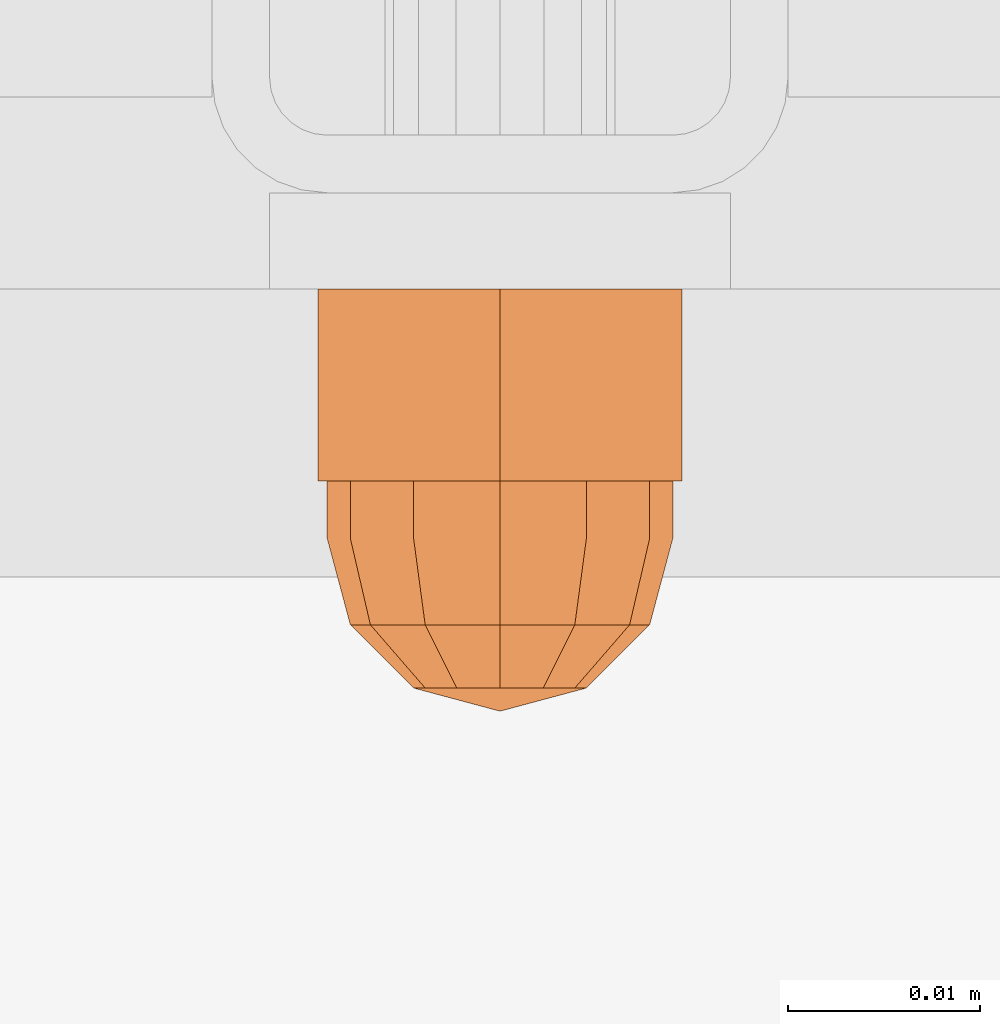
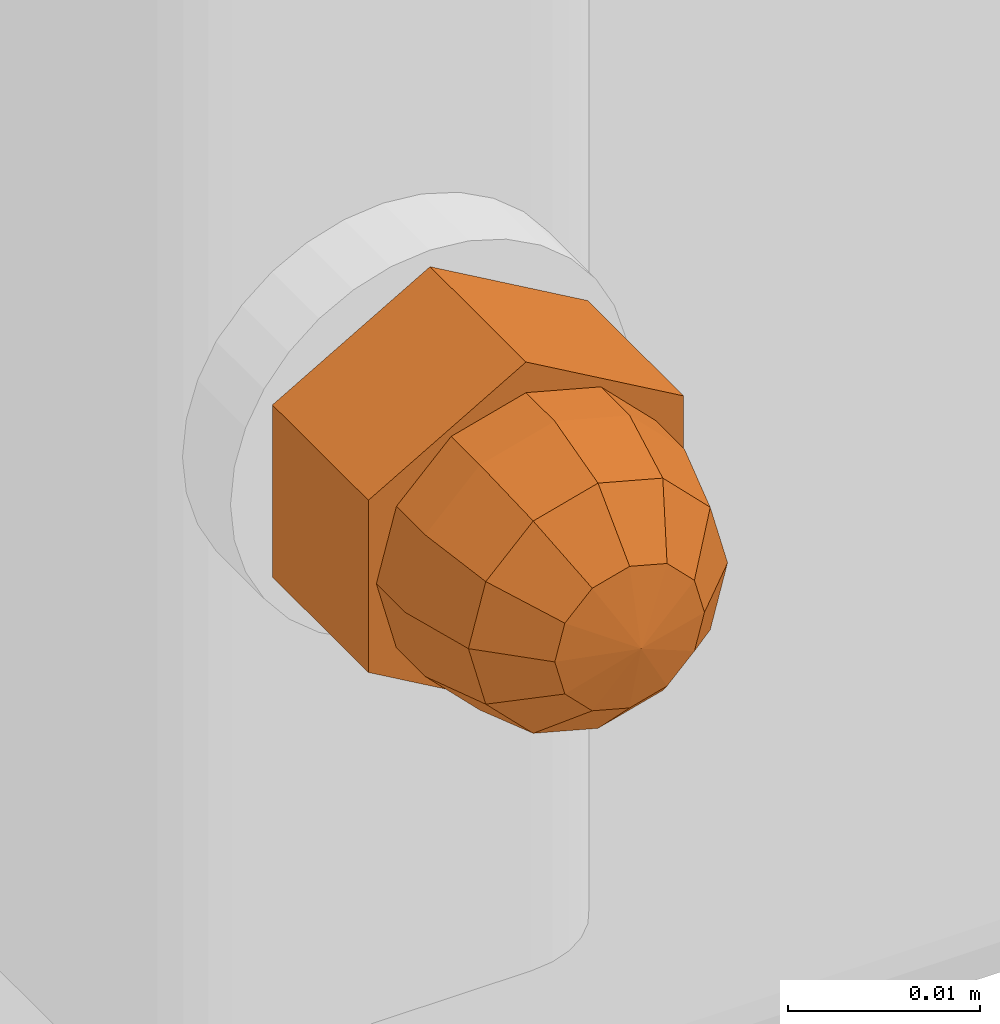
# One storey, part 119 of 162: 1 proxy.
"""IFC2X3 building model written with IfcOpenShell, lengths in millimetres."""

import ifcopenshell
import ifcopenshell.guid

model = None  # the IFC model being written
_history = None  # IfcOwnerHistory: only IFC2X3 demands one
_inside = {}  # id of a spatial element -> (the spatial element, [elements in it])
_under = {}  # id of a project, library or spatial element -> (it, [spatial elements below it])
_declared = {}  # id of a project -> (the project, [libraries it declares])
_typed = {}  # id of a type object -> (the type object, [elements of that type])
_made_of = {}  # id of a material, layer set ... -> (it, [elements and type objects made of it])


def new_model(schema):
    """Start an empty IFC model of exactly this schema.

    Asked for "IFC4X3", IfcOpenShell would pick the latest addendum, in which some entities
    have other attributes; the version numbers below select the first issue.
    IFC2X3 requires an IfcOwnerHistory on every rooted entity: one is made here for all.
    """
    global model, _history
    if schema == "IFC4X3":
        model = ifcopenshell.file(schema_version=(4, 3, 0, 0))
    else:
        model = ifcopenshell.file(schema=schema)
    _inside.clear()
    _under.clear()
    _declared.clear()
    _typed.clear()
    _made_of.clear()
    _history = None
    if model.schema == "IFC2X3":
        org = make("IfcOrganization", Name="unknown")
        user = make(
            "IfcPersonAndOrganization",
            ThePerson=make("IfcPerson", FamilyName="unknown"),
            TheOrganization=org,
        )
        app = make(
            "IfcApplication",
            ApplicationDeveloper=org,
            Version="unknown",
            ApplicationFullName="unknown",
            ApplicationIdentifier="unknown",
        )
        _history = make(
            "IfcOwnerHistory",
            OwningUser=user,
            OwningApplication=app,
            ChangeAction="ADDED",
            CreationDate=0,
        )
    return model


def make(cls, **values):
    """One entity of the class cls with the attributes given. An attribute that is None is left unset."""
    return model.create_entity(
        cls, **{name: value for name, value in values.items() if value is not None}
    )


def entity(cls, *values):
    """Any entity or typed value of the class cls, its attributes in the order of the schema. None: left unset."""
    e = model.create_entity(cls)
    for i, value in enumerate(values):
        if value is not None:
            e[i] = value
    return e


def rooted(cls, **values):
    """An entity with a GlobalId (a new one), such as an element, a storey or a relation."""
    return make(cls, GlobalId=ifcopenshell.guid.new(), OwnerHistory=_history, **values)


def si_unit(unit_type, name, prefix=None):
    """IfcSIUnit, for example si_unit("LENGTHUNIT", "METRE", prefix="MILLI")."""
    return make("IfcSIUnit", UnitType=unit_type, Prefix=prefix, Name=name)


def converted_unit(unit_type, name, factor, base, dimensions=None, offset=None):
    """IfcConversionBasedUnit, such as the inch: factor (a typed value) times the base unit."""
    return make(
        "IfcConversionBasedUnit"
        if offset is None
        else "IfcConversionBasedUnitWithOffset",
        ConversionOffset=offset,
        Dimensions=None
        if dimensions is None
        else entity("IfcDimensionalExponents", *dimensions),
        UnitType=unit_type,
        Name=name,
        ConversionFactor=make(
            "IfcMeasureWithUnit", ValueComponent=factor, UnitComponent=base
        ),
    )


def assignment(units):
    """IfcUnitAssignment: the units of a project."""
    return None if units is None else make("IfcUnitAssignment", Units=units)


def point(xyz):
    """IfcCartesianPoint."""
    return None if xyz is None else make("IfcCartesianPoint", Coordinates=xyz)


def direction(xyz):
    """IfcDirection."""
    return None if xyz is None else make("IfcDirection", DirectionRatios=xyz)


def frame(location, z_axis=None, x_axis=None):
    """IfcAxis2Placement3D, a coordinate frame: its origin and axes. An axis left out is left unset."""
    return make(
        "IfcAxis2Placement3D",
        Location=point(location),
        Axis=direction(z_axis),
        RefDirection=direction(x_axis),
    )


def origin_with_axes():
    """The frame at (0, 0, 0) with the z axis (0, 0, 1) and the x axis (1, 0, 0) written out."""
    return frame((0.0, 0.0, 0.0), z_axis=(0.0, 0.0, 1.0), x_axis=(1.0, 0.0, 0.0))


def place(relative_to, where):
    """IfcLocalPlacement: puts the frame where relative to a parent placement (None: the world)."""
    return make(
        "IfcLocalPlacement", PlacementRelTo=relative_to, RelativePlacement=where
    )


def context(
    kind, dimensions, precision=None, world=None, true_north=None, identifier=None
):
    """IfcGeometricRepresentationContext, for example the 3D "Model" context."""
    return make(
        "IfcGeometricRepresentationContext",
        ContextIdentifier=identifier,
        ContextType=kind,
        CoordinateSpaceDimension=dimensions,
        Precision=precision,
        WorldCoordinateSystem=world,
        TrueNorth=true_north,
    )


def project(units=None, contexts=None):
    """IfcProject with its units and contexts."""
    return rooted(
        "IfcProject",
        Name="project",
        RepresentationContexts=contexts,
        UnitsInContext=assignment(units),
    )


def spatial(cls, under=None, at=None, **own):
    """A site, building, storey or space (cls), placed at a placement, below another one or the project."""
    s = rooted(cls, ObjectPlacement=at, **own)
    if under is not None:
        _under.setdefault(under.id(), (under, []))[1].append(s)
    return s


def faces_of(points, faces, orient=None, outer=None):
    """IfcFace entities. A face is a list of loops; a loop is a list of indices into points, from 0.

    orient and outer hold one flag for each loop. By default every Orientation is true, the
    first loop of a face is its IfcFaceOuterBound and the others are IfcFaceBound.
    """
    made = []
    for i, loops in enumerate(faces):
        bounds = []
        for j, loop in enumerate(loops):
            is_outer = j == 0 if outer is None else outer[i][j]
            bounds.append(
                make(
                    "IfcFaceOuterBound" if is_outer else "IfcFaceBound",
                    Bound=make("IfcPolyLoop", Polygon=[points[k] for k in loop]),
                    Orientation=True if orient is None else orient[i][j],
                )
            )
        made.append(make("IfcFace", Bounds=bounds))
    return made


def faceted_brep(points, faces, orient=None, outer=None, voids=None):
    """IfcFacetedBrep: a solid bounded by flat faces; with voids (closed shells), ...WithVoids."""
    shared = [point(p) for p in points]
    hull = make("IfcClosedShell", CfsFaces=faces_of(shared, faces, orient, outer))
    if voids is None:
        return make("IfcFacetedBrep", Outer=hull)
    return make(
        "IfcFacetedBrepWithVoids",
        Outer=hull,
        Voids=[
            make(cls, CfsFaces=faces_of(shared, fs, o, b)) for cls, fs, o, b in voids
        ],
    )


def shape(context_of_items, identifier, shape_type, items):
    """IfcShapeRepresentation: the items that make up one representation, for example the "Body"."""
    return make(
        "IfcShapeRepresentation",
        ContextOfItems=context_of_items,
        RepresentationIdentifier=identifier,
        RepresentationType=shape_type,
        Items=items,
    )


def material(Name=None, Category=None):
    """IfcMaterial."""
    return make("IfcMaterial", Name=Name, Category=Category)


def made_of(thing, what):
    """Note that an element or type object is made of a material, layer set ...; save() writes the relation."""
    if what is not None:
        _made_of.setdefault(what.id(), (what, []))[1].append(thing)
    return thing


def element(
    cls,
    number,
    at=None,
    inside=None,
    cuts=None,
    type_object=None,
    material=None,
    context=None,
    identifier="Body",
    shape_type=None,
    held_by="IfcProductDefinitionShape",
    body=None,
    shapes=None,
    **own,
):
    """One element of the class cls, such as IfcWall. Its Tag is "e" and its number.

    at: its placement. inside: the storey or other place that contains it. cuts: it is an
    opening in that element (IfcRelVoidsElement). A single representation is given by context,
    identifier, shape_type and body (its items); several are given by shapes. held_by: the class
    of the entity that holds the representations. save() writes the other relations.
    """
    e = rooted(cls, Tag="e%d" % number, ObjectPlacement=at, **own)
    if body is not None:
        shapes = [shape(context, identifier, shape_type, body)]
    if shapes is not None:
        e.Representation = make(held_by, Representations=shapes)
    if inside is not None:
        _inside.setdefault(inside.id(), (inside, []))[1].append(e)
    if cuts is not None:
        rooted(
            "IfcRelVoidsElement", RelatingBuildingElement=cuts, RelatedOpeningElement=e
        )
    if type_object is not None:
        _typed.setdefault(type_object.id(), (type_object, []))[1].append(e)
    return made_of(e, material)


def aggregate(whole, parts):
    """IfcRelAggregates: a whole, such as a stair, and the parts it consists of."""
    return rooted("IfcRelAggregates", RelatingObject=whole, RelatedObjects=parts)


def save(model, path):
    """Write the relations noted so far, then the file.

    IfcRelAggregates (storeys below a building ...), IfcRelContainedInSpatialStructure (elements
    in a storey), IfcRelDefinesByType, IfcRelAssociatesMaterial and IfcRelDeclares: one each for
    every whole, place, type object, material and project.
    """
    for whole, parts in _under.values():
        aggregate(whole, parts)
    for where, things in _inside.values():
        rooted(
            "IfcRelContainedInSpatialStructure",
            RelatedElements=things,
            RelatingStructure=where,
        )
    for kind, things in _typed.values():
        rooted("IfcRelDefinesByType", RelatedObjects=things, RelatingType=kind)
    for what, things in _made_of.values():
        rooted("IfcRelAssociatesMaterial", RelatedObjects=things, RelatingMaterial=what)
    for by, libraries in _declared.values():
        rooted("IfcRelDeclares", RelatingContext=by, RelatedDefinitions=libraries)
    model.write(path)


model = new_model("IFC2X3")

# Units and contexts
model_context = context("Model", 3, precision=1e-09, world=origin_with_axes())
ifc_project = project(units=[si_unit("LENGTHUNIT", "METRE", prefix="MILLI"), si_unit("AREAUNIT", "SQUARE_METRE"), si_unit("VOLUMEUNIT", "CUBIC_METRE"), converted_unit("PLANEANGLEUNIT", "DEGREE", entity("IfcPlaneAngleMeasure", 0.01745329), si_unit("PLANEANGLEUNIT", "RADIAN"), dimensions=[0, 0, 0, 0, 0, 0, 0])], contexts=[model_context])

# Site, building, storey
site_placement = place(None, origin_with_axes())
site = spatial("IfcSite", under=ifc_project, at=site_placement, Name="Hermannstra?e 1a, 60318 Frankfurt", CompositionType="ELEMENT")
building_placement = place(site_placement, origin_with_axes())
building = spatial("IfcBuilding", under=site, at=building_placement, Name="Struktur 1", CompositionType="ELEMENT")
storey_placement = place(building_placement, origin_with_axes())
storey = spatial("IfcBuildingStorey", under=building, at=storey_placement, Name="Default Storey", CompositionType="ELEMENT", Elevation=0.0)

# Proxy
ifc_material = material(Name="Kein")
proxy_placement = place(None, origin_with_axes())
element("IfcBuildingElementProxy", 1, at=proxy_placement, inside=storey, material=ifc_material, ObjectType="-", context=model_context, shape_type="Brep", body=[
    faceted_brep([(3517.30936482, 1490.609373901, 15096.999), (3517.30936482, 1480.609373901, 15096.999), (3518.113212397, 1480.609373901, 15093.999), (3518.113212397, 1490.609373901, 15093.999), (3520.30936482, 1480.609373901, 15091.802847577), (3520.30936482, 1490.609373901, 15091.802847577), (3518.113212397, 1490.609373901, 15099.999), (3518.113212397, 1480.609373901, 15099.999), (3513.829495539, 1490.609373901, 15102.472205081), (3523.30936482, 1490.609373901, 15107.945410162), (3532.7892341, 1490.609373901, 15102.472205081), (3532.7892341, 1490.609373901, 15091.525794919), (3523.30936482, 1490.609373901, 15086.052589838), (3513.829495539, 1490.609373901, 15091.525794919), (3520.30936482, 1490.609373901, 15102.195152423), (3523.30936482, 1490.609373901, 15090.999), (3526.30936482, 1490.609373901, 15091.802847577), (3528.505517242, 1490.609373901, 15093.999), (3529.30936482, 1490.609373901, 15096.999), (3528.505517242, 1490.609373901, 15099.999), (3526.30936482, 1490.609373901, 15102.195152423), (3523.30936482, 1490.609373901, 15102.999), (3523.30936482, 1480.609373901, 15107.945410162), (3513.829495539, 1480.609373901, 15102.472205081), (3513.829495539, 1480.609373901, 15091.525794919), (3523.30936482, 1480.609373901, 15086.052589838), (3532.7892341, 1480.609373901, 15091.525794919), (3532.7892341, 1480.609373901, 15102.472205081), (3520.30936482, 1480.609373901, 15102.195152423), (3523.30936482, 1480.609373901, 15102.999), (3526.30936482, 1480.609373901, 15102.195152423), (3528.505517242, 1480.609373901, 15099.999), (3529.30936482, 1480.609373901, 15096.999), (3528.505517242, 1480.609373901, 15093.999), (3526.30936482, 1480.609373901, 15091.802847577), (3523.30936482, 1480.609373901, 15090.999)], [[[0, 1, 2, 3]], [[3, 2, 4, 5]], [[1, 0, 6, 7]], [[8, 9, 10, 11, 12, 13], [14, 6, 0, 3, 5, 15, 16, 17, 18, 19, 20, 21]], [[22, 23, 24, 25, 26, 27], [1, 7, 28, 29, 30, 31, 32, 33, 34, 35, 4, 2]], [[7, 6, 14, 28]], [[24, 23, 8, 13]], [[5, 4, 35, 15]], [[13, 12, 25, 24]], [[28, 14, 21, 29]], [[23, 22, 9, 8]], [[15, 35, 34, 16]], [[12, 11, 26, 25]], [[29, 21, 20, 30]], [[22, 27, 10, 9]], [[16, 34, 33, 17]], [[27, 26, 11, 10]], [[30, 20, 19, 31]], [[17, 33, 32, 18]], [[31, 19, 18, 32]]]),
    faceted_brep([(3523.30936482, 1480.609373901, 15105.999), (3523.30936482, 1477.609373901, 15105.999), (3527.80936482, 1477.609373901, 15104.793228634), (3527.80936482, 1480.609373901, 15104.793228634), (3518.80936482, 1480.609373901, 15104.793228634), (3518.80936482, 1477.609373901, 15104.793228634), (3515.515136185, 1477.609373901, 15092.499), (3518.80936482, 1477.609373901, 15089.204771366), (3523.30936482, 1477.609373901, 15087.999), (3527.80936482, 1477.609373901, 15089.204771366), (3531.103593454, 1477.609373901, 15092.499), (3532.30936482, 1477.609373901, 15096.999), (3531.103593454, 1477.609373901, 15101.499), (3515.515136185, 1477.609373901, 15101.499), (3514.30936482, 1477.609373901, 15096.999), (3531.103593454, 1480.609373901, 15092.499), (3527.80936482, 1480.609373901, 15089.204771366), (3523.30936482, 1480.609373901, 15087.999), (3518.80936482, 1480.609373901, 15089.204771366), (3515.515136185, 1480.609373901, 15092.499), (3514.30936482, 1480.609373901, 15096.999), (3515.515136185, 1480.609373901, 15101.499), (3531.103593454, 1480.609373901, 15101.499), (3532.30936482, 1480.609373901, 15096.999)], [[[0, 1, 2, 3]], [[1, 0, 4, 5]], [[6, 7, 8, 9, 10, 11, 12, 2, 1, 5, 13, 14]], [[15, 16, 17, 18, 19, 20, 21, 4, 0, 3, 22, 23]], [[3, 2, 12, 22]], [[5, 4, 21, 13]], [[22, 12, 11, 23]], [[13, 21, 20, 14]], [[7, 18, 17, 8]], [[19, 6, 14, 20]], [[18, 7, 6, 19]], [[23, 11, 10, 15]], [[8, 17, 16, 9]], [[15, 10, 9, 16]]]),
    faceted_brep([(3515.515136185, 1477.609373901, 15101.499), (3516.55936482, 1473.109373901, 15100.896114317), (3519.412250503, 1473.109373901, 15103.749), (3518.80936482, 1477.609373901, 15104.793228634), (3531.103593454, 1477.609373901, 15092.499), (3527.80936482, 1477.609373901, 15089.204771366), (3523.30936482, 1477.609373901, 15087.999), (3518.80936482, 1477.609373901, 15089.204771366), (3515.515136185, 1477.609373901, 15092.499), (3514.30936482, 1477.609373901, 15096.999), (3523.30936482, 1477.609373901, 15105.999), (3527.80936482, 1477.609373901, 15104.793228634), (3531.103593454, 1477.609373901, 15101.499), (3532.30936482, 1477.609373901, 15096.999), (3523.30936482, 1473.109373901, 15104.793228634), (3515.515136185, 1473.109373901, 15096.999), (3518.80936482, 1469.815145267, 15096.999), (3519.412250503, 1469.815145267, 15099.249), (3527.206479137, 1473.109373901, 15103.749), (3521.05936482, 1469.815145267, 15100.896114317), (3516.55936482, 1473.109373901, 15093.101885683), (3519.412250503, 1469.815145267, 15094.749), (3523.30936482, 1469.815145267, 15101.499), (3523.30936482, 1468.609373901, 15096.999), (3519.412250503, 1473.109373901, 15090.249), (3521.05936482, 1469.815145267, 15093.101885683), (3523.30936482, 1473.109373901, 15089.204771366), (3530.05936482, 1473.109373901, 15100.896114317), (3525.55936482, 1469.815145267, 15100.896114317), (3523.30936482, 1469.815145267, 15092.499), (3527.206479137, 1473.109373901, 15090.249), (3525.55936482, 1469.815145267, 15093.101885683), (3531.103593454, 1473.109373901, 15096.999), (3527.206479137, 1469.815145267, 15099.249), (3530.05936482, 1473.109373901, 15093.101885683), (3527.206479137, 1469.815145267, 15094.749), (3527.80936482, 1469.815145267, 15096.999)], [[[0, 1, 2, 3]], [[4, 5, 6, 7, 8, 9, 0, 3, 10, 11, 12, 13]], [[3, 2, 14, 10]], [[15, 16, 17, 1]], [[1, 0, 9, 15]], [[10, 14, 18, 11]], [[1, 17, 19, 2]], [[16, 15, 20, 21]], [[2, 19, 22, 14]], [[23, 17, 16]], [[24, 25, 21, 20]], [[23, 16, 21]], [[24, 7, 6, 26]], [[20, 8, 7, 24]], [[15, 9, 8, 20]], [[11, 18, 27, 12]], [[14, 22, 28, 18]], [[23, 19, 17]], [[26, 29, 25, 24]], [[23, 21, 25]], [[23, 22, 19]], [[26, 6, 5, 30]], [[29, 26, 30, 31]], [[23, 25, 29]], [[12, 27, 32, 13]], [[18, 28, 33, 27]], [[23, 28, 22]], [[23, 29, 31]], [[23, 33, 28]], [[30, 5, 4, 34]], [[31, 30, 34, 35]], [[23, 31, 35]], [[13, 32, 34, 4]], [[27, 33, 36, 32]], [[23, 36, 33]], [[23, 35, 36]], [[35, 34, 32, 36]]]),
])

save(model, "model.ifc")
